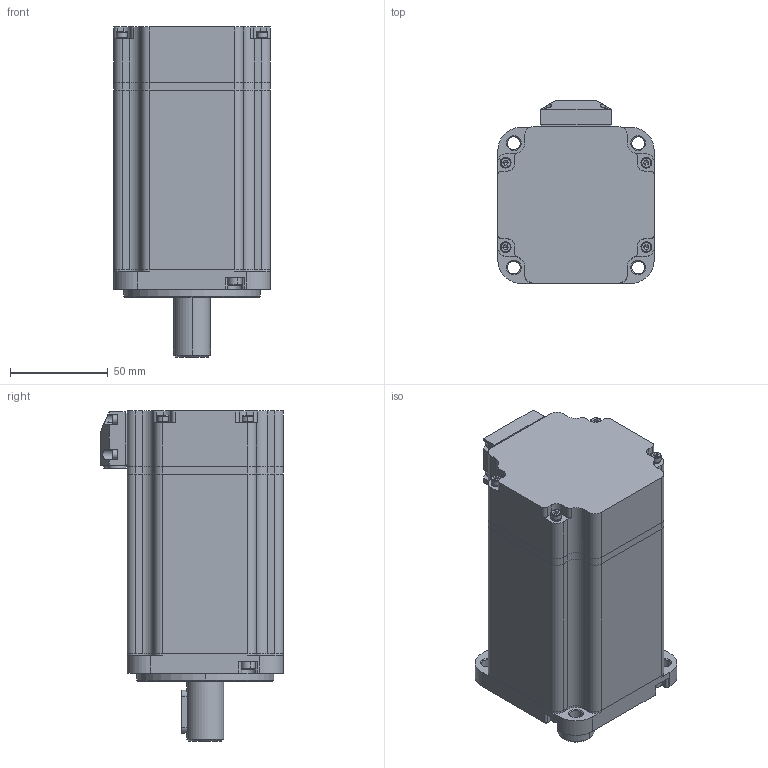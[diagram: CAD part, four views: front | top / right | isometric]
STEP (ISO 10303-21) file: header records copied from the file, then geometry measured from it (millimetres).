
FILE_DESCRIPTION (( 'STEP AP203' ), '1' );
FILE_NAME ('9.5890-SMC80S-0100-30AAK-5SH.STEP', '2021-01-04T06:16:01', ( 'PC' ), ( 'Microsoft' ), 'SwSTEP 2.0', 'SolidWorks 2018', '' );
FILE_SCHEMA (( 'CONFIG_CONTROL_DESIGN' ));
Products named in the file (1): 9.5890-SMC80S-0100-30AAK-5SH
Bounding box: 80 x 93.5 x 168.9 mm (x, y, z)
Volume: 293963.8 mm3; surface area: 169093.4 mm2
Topology: 34 solids, 34 shells, 1607 faces, 4443 edges, 2799 vertices
Faces by surface type: cylinder 603, plane 561, sphere 172, torus 153, cone 108, bspline 10
Entity records: 54904 total; most frequent: CARTESIAN_POINT 14275, DIRECTION 8718, ORIENTED_EDGE 8494, EDGE_CURVE 4247, AXIS2_PLACEMENT_3D 3515, VERTEX_POINT 2749, CIRCLE 1917, EDGE_LOOP 1822
